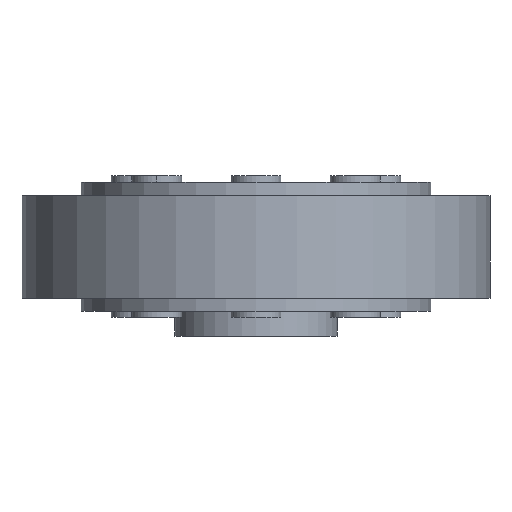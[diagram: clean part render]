
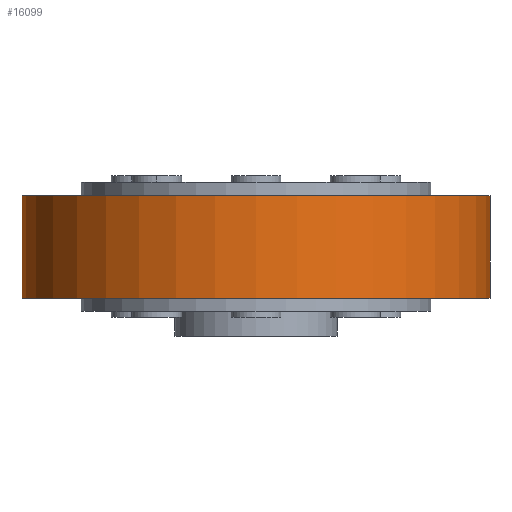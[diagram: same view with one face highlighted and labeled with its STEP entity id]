
A CAD part, front view. The second image highlights one B-rep face of the part: STEP entity #16099.
In plain terms, the highlighted cylindrical face has radius 37.5 mm (diameter 75 mm), a partial arc.
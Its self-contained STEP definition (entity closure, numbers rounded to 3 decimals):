
#349 = VERTEX_POINT ( 'NONE', #9913 ) ;
#450 = DIRECTION ( 'NONE',  ( 0., 0., -1. ) ) ;
#673 = EDGE_CURVE ( 'NONE', #5255, #6489, #2433, .T. ) ;
#775 = ORIENTED_EDGE ( 'NONE', *, *, #673, .T. ) ;
#895 = DIRECTION ( 'NONE',  ( 0., 0., 1. ) ) ;
#1526 = EDGE_LOOP ( 'NONE', ( #16563, #1858, #9120, #775 ) ) ;
#1858 = ORIENTED_EDGE ( 'NONE', *, *, #16625, .F. ) ;
#2087 = AXIS2_PLACEMENT_3D ( 'NONE', #5857, #11414, #13068 ) ;
#2433 = CIRCLE ( 'NONE', #11156, 37.5 ) ;
#2630 = CARTESIAN_POINT ( 'NONE',  ( 0., 0., -8.2 ) ) ;
#2702 = CYLINDRICAL_SURFACE ( 'NONE', #4067, 37.5 ) ;
#2968 = DIRECTION ( 'NONE',  ( -1., 0., 0. ) ) ;
#3800 = EDGE_CURVE ( 'NONE', #349, #6489, #12674, .T. ) ;
#4067 = AXIS2_PLACEMENT_3D ( 'NONE', #4420, #18036, #2968 ) ;
#4420 = CARTESIAN_POINT ( 'NONE',  ( 0., 0., 8.2 ) ) ;
#4822 = CARTESIAN_POINT ( 'NONE',  ( -37.5, 0., 8.2 ) ) ;
#5255 = VERTEX_POINT ( 'NONE', #8365 ) ;
#5857 = CARTESIAN_POINT ( 'NONE',  ( 0., 0., 8.2 ) ) ;
#6489 = VERTEX_POINT ( 'NONE', #12329 ) ;
#7372 = CARTESIAN_POINT ( 'NONE',  ( 37.5, 0., 8.2 ) ) ;
#7518 = DIRECTION ( 'NONE',  ( 0., 0., -1. ) ) ;
#8365 = CARTESIAN_POINT ( 'NONE',  ( -37.5, 0., -8.2 ) ) ;
#8517 = VECTOR ( 'NONE', #7518, 1000. ) ;
#9120 = ORIENTED_EDGE ( 'NONE', *, *, #11014, .T. ) ;
#9913 = CARTESIAN_POINT ( 'NONE',  ( 37.5, 0., 8.2 ) ) ;
#10271 = VERTEX_POINT ( 'NONE', #4822 ) ;
#11014 = EDGE_CURVE ( 'NONE', #10271, #5255, #11795, .T. ) ;
#11156 = AXIS2_PLACEMENT_3D ( 'NONE', #2630, #895, #16502 ) ;
#11414 = DIRECTION ( 'NONE',  ( 0., 0., 1. ) ) ;
#11795 = LINE ( 'NONE', #14566, #8517 ) ;
#12329 = CARTESIAN_POINT ( 'NONE',  ( 37.5, 0., -8.2 ) ) ;
#12674 = LINE ( 'NONE', #7372, #13095 ) ;
#13068 = DIRECTION ( 'NONE',  ( 1., 0., 0. ) ) ;
#13095 = VECTOR ( 'NONE', #450, 1000. ) ;
#14335 = CIRCLE ( 'NONE', #2087, 37.5 ) ;
#14566 = CARTESIAN_POINT ( 'NONE',  ( -37.5, 0., 8.2 ) ) ;
#15479 = FACE_OUTER_BOUND ( 'NONE', #1526, .T. ) ;
#16099 = ADVANCED_FACE ( 'NONE', ( #15479 ), #2702, .T. ) ;
#16502 = DIRECTION ( 'NONE',  ( 1., 0., 0. ) ) ;
#16563 = ORIENTED_EDGE ( 'NONE', *, *, #3800, .F. ) ;
#16625 = EDGE_CURVE ( 'NONE', #10271, #349, #14335, .T. ) ;
#18036 = DIRECTION ( 'NONE',  ( 0., 0., -1. ) ) ;
